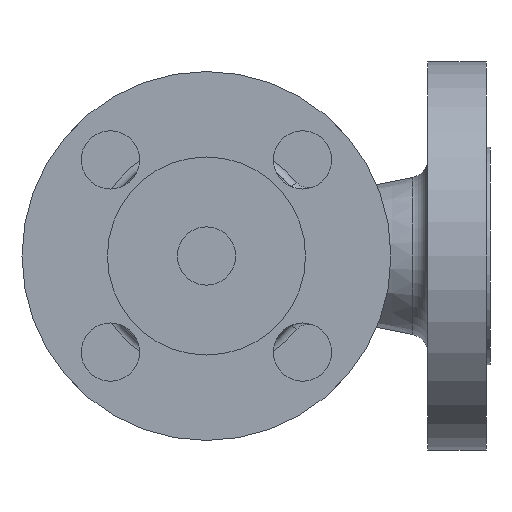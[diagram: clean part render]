
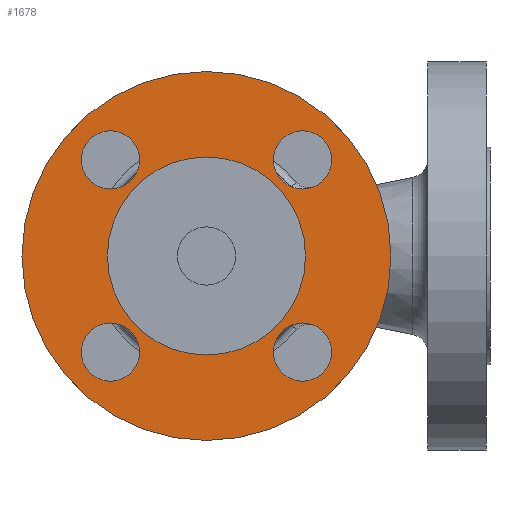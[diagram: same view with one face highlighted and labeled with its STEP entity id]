
A CAD part, front view. The second image highlights one B-rep face of the part: STEP entity #1678.
In plain terms, the highlighted planar face has unit normal (0, -1, 0).
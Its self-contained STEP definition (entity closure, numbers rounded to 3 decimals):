
#57 = ORIENTED_EDGE ( 'NONE', *, *, #506, .F. ) ;
#112 = DIRECTION ( 'NONE',  ( -1., 0., 0. ) ) ;
#154 = CIRCLE ( 'NONE', #2131, 7.5 ) ;
#400 = FACE_BOUND ( 'NONE', #2006, .T. ) ;
#414 = DIRECTION ( 'NONE',  ( 0., -1., 0. ) ) ;
#424 = CARTESIAN_POINT ( 'NONE',  ( -25.5, -71., 0. ) ) ;
#441 = CARTESIAN_POINT ( 'NONE',  ( 0., -71., -25.5 ) ) ;
#506 = EDGE_CURVE ( 'NONE', #753, #2896, #1144, .T. ) ;
#510 = DIRECTION ( 'NONE',  ( 0., 0., 1. ) ) ;
#597 = EDGE_CURVE ( 'NONE', #2718, #3862, #1820, .T. ) ;
#649 = CARTESIAN_POINT ( 'NONE',  ( -24.749, -71., 24.749 ) ) ;
#664 = DIRECTION ( 'NONE',  ( -1., 0., 0. ) ) ;
#711 = AXIS2_PLACEMENT_3D ( 'NONE', #2537, #1681, #112 ) ;
#753 = VERTEX_POINT ( 'NONE', #2943 ) ;
#778 = FACE_OUTER_BOUND ( 'NONE', #1439, .T. ) ;
#786 = AXIS2_PLACEMENT_3D ( 'NONE', #5008, #4115, #2106 ) ;
#1042 = ORIENTED_EDGE ( 'NONE', *, *, #2656, .F. ) ;
#1057 = DIRECTION ( 'NONE',  ( 0., -1., 0. ) ) ;
#1112 = DIRECTION ( 'NONE',  ( 0., 0., 1. ) ) ;
#1117 = ORIENTED_EDGE ( 'NONE', *, *, #4828, .F. ) ;
#1144 = CIRCLE ( 'NONE', #711, 7.5 ) ;
#1354 = AXIS2_PLACEMENT_3D ( 'NONE', #649, #3927, #4810 ) ;
#1439 = EDGE_LOOP ( 'NONE', ( #1117, #4475 ) ) ;
#1468 = DIRECTION ( 'NONE',  ( 0., 0., 1. ) ) ;
#1492 = EDGE_LOOP ( 'NONE', ( #2108, #1042 ) ) ;
#1499 = DIRECTION ( 'NONE',  ( 0., -1., 0. ) ) ;
#1535 = CARTESIAN_POINT ( 'NONE',  ( -24.749, -71., -32.249 ) ) ;
#1580 = AXIS2_PLACEMENT_3D ( 'NONE', #3119, #1499, #664 ) ;
#1597 = CIRCLE ( 'NONE', #5155, 7.5 ) ;
#1671 = CARTESIAN_POINT ( 'NONE',  ( 0., -71., -47.5 ) ) ;
#1678 = ADVANCED_FACE ( 'NONE', ( #5319, #3261, #4907, #4493, #400, #778 ), #4522, .T. ) ;
#1681 = DIRECTION ( 'NONE',  ( 0., -1., 0. ) ) ;
#1807 = VERTEX_POINT ( 'NONE', #441 ) ;
#1820 = CIRCLE ( 'NONE', #4883, 7.5 ) ;
#1851 = VERTEX_POINT ( 'NONE', #3302 ) ;
#1861 = CARTESIAN_POINT ( 'NONE',  ( 0., -71., 0. ) ) ;
#1912 = DIRECTION ( 'NONE',  ( 0., -1., 0. ) ) ;
#1914 = AXIS2_PLACEMENT_3D ( 'NONE', #424, #2060, #3308 ) ;
#1999 = EDGE_LOOP ( 'NONE', ( #3033, #4405 ) ) ;
#2006 = EDGE_LOOP ( 'NONE', ( #4288, #4063 ) ) ;
#2060 = DIRECTION ( 'NONE',  ( 0., -1., 0. ) ) ;
#2106 = DIRECTION ( 'NONE',  ( 1., 0., 0. ) ) ;
#2108 = ORIENTED_EDGE ( 'NONE', *, *, #4337, .F. ) ;
#2131 = AXIS2_PLACEMENT_3D ( 'NONE', #5159, #1912, #3957 ) ;
#2159 = CARTESIAN_POINT ( 'NONE',  ( -24.749, -71., 32.249 ) ) ;
#2181 = AXIS2_PLACEMENT_3D ( 'NONE', #4665, #4231, #3847 ) ;
#2184 = CIRCLE ( 'NONE', #2617, 47.5 ) ;
#2408 = CIRCLE ( 'NONE', #786, 7.5 ) ;
#2427 = CARTESIAN_POINT ( 'NONE',  ( 0., -71., 47.5 ) ) ;
#2447 = CARTESIAN_POINT ( 'NONE',  ( 24.749, -71., 17.249 ) ) ;
#2537 = CARTESIAN_POINT ( 'NONE',  ( 24.749, -71., 24.749 ) ) ;
#2573 = DIRECTION ( 'NONE',  ( 0., 0., 1. ) ) ;
#2617 = AXIS2_PLACEMENT_3D ( 'NONE', #2626, #3501, #1468 ) ;
#2626 = CARTESIAN_POINT ( 'NONE',  ( 0., -71., 0. ) ) ;
#2656 = EDGE_CURVE ( 'NONE', #2902, #5255, #1597, .T. ) ;
#2683 = CARTESIAN_POINT ( 'NONE',  ( 24.749, -71., -32.249 ) ) ;
#2701 = DIRECTION ( 'NONE',  ( 0., 1., 0. ) ) ;
#2718 = VERTEX_POINT ( 'NONE', #1535 ) ;
#2745 = EDGE_LOOP ( 'NONE', ( #4845, #2826 ) ) ;
#2798 = CIRCLE ( 'NONE', #3924, 47.5 ) ;
#2826 = ORIENTED_EDGE ( 'NONE', *, *, #3722, .F. ) ;
#2856 = CIRCLE ( 'NONE', #3371, 25.5 ) ;
#2896 = VERTEX_POINT ( 'NONE', #2447 ) ;
#2902 = VERTEX_POINT ( 'NONE', #4127 ) ;
#2943 = CARTESIAN_POINT ( 'NONE',  ( 24.749, -71., 32.249 ) ) ;
#2977 = EDGE_CURVE ( 'NONE', #1807, #1851, #3570, .T. ) ;
#3033 = ORIENTED_EDGE ( 'NONE', *, *, #4593, .F. ) ;
#3035 = DIRECTION ( 'NONE',  ( 0., 1., 0. ) ) ;
#3070 = EDGE_CURVE ( 'NONE', #2896, #753, #3662, .T. ) ;
#3119 = CARTESIAN_POINT ( 'NONE',  ( 24.749, -71., 24.749 ) ) ;
#3261 = FACE_BOUND ( 'NONE', #1492, .T. ) ;
#3275 = DIRECTION ( 'NONE',  ( 1., 0., 0. ) ) ;
#3302 = CARTESIAN_POINT ( 'NONE',  ( 0., -71., 25.5 ) ) ;
#3308 = DIRECTION ( 'NONE',  ( 0., 0., -1. ) ) ;
#3339 = VERTEX_POINT ( 'NONE', #2159 ) ;
#3371 = AXIS2_PLACEMENT_3D ( 'NONE', #1861, #2701, #1112 ) ;
#3498 = VERTEX_POINT ( 'NONE', #5259 ) ;
#3501 = DIRECTION ( 'NONE',  ( 0., 1., 0. ) ) ;
#3570 = CIRCLE ( 'NONE', #4970, 25.5 ) ;
#3662 = CIRCLE ( 'NONE', #1580, 7.5 ) ;
#3722 = EDGE_CURVE ( 'NONE', #3862, #2718, #2408, .T. ) ;
#3847 = DIRECTION ( 'NONE',  ( 0., 0., -1. ) ) ;
#3857 = CARTESIAN_POINT ( 'NONE',  ( -24.749, -71., -17.249 ) ) ;
#3862 = VERTEX_POINT ( 'NONE', #3857 ) ;
#3890 = CARTESIAN_POINT ( 'NONE',  ( 0., -71., 0. ) ) ;
#3924 = AXIS2_PLACEMENT_3D ( 'NONE', #4643, #5125, #510 ) ;
#3927 = DIRECTION ( 'NONE',  ( 0., -1., 0. ) ) ;
#3957 = DIRECTION ( 'NONE',  ( 0., 0., 1. ) ) ;
#4033 = EDGE_CURVE ( 'NONE', #1851, #1807, #2856, .T. ) ;
#4063 = ORIENTED_EDGE ( 'NONE', *, *, #2977, .T. ) ;
#4115 = DIRECTION ( 'NONE',  ( 0., -1., 0. ) ) ;
#4125 = VERTEX_POINT ( 'NONE', #2427 ) ;
#4127 = CARTESIAN_POINT ( 'NONE',  ( 24.749, -71., -17.249 ) ) ;
#4231 = DIRECTION ( 'NONE',  ( 0., -1., 0. ) ) ;
#4288 = ORIENTED_EDGE ( 'NONE', *, *, #4033, .T. ) ;
#4337 = EDGE_CURVE ( 'NONE', #5255, #2902, #154, .T. ) ;
#4378 = DIRECTION ( 'NONE',  ( 0., 0., 1. ) ) ;
#4405 = ORIENTED_EDGE ( 'NONE', *, *, #4911, .F. ) ;
#4475 = ORIENTED_EDGE ( 'NONE', *, *, #5366, .F. ) ;
#4493 = FACE_BOUND ( 'NONE', #1999, .T. ) ;
#4522 = PLANE ( 'NONE',  #1914 ) ;
#4549 = CIRCLE ( 'NONE', #2181, 7.5 ) ;
#4593 = EDGE_CURVE ( 'NONE', #3498, #3339, #4748, .T. ) ;
#4643 = CARTESIAN_POINT ( 'NONE',  ( 0., -71., 0. ) ) ;
#4665 = CARTESIAN_POINT ( 'NONE',  ( -24.749, -71., 24.749 ) ) ;
#4748 = CIRCLE ( 'NONE', #1354, 7.5 ) ;
#4759 = VERTEX_POINT ( 'NONE', #1671 ) ;
#4787 = CARTESIAN_POINT ( 'NONE',  ( 24.749, -71., -24.749 ) ) ;
#4810 = DIRECTION ( 'NONE',  ( 0., 0., -1. ) ) ;
#4828 = EDGE_CURVE ( 'NONE', #4125, #4759, #2798, .T. ) ;
#4845 = ORIENTED_EDGE ( 'NONE', *, *, #597, .F. ) ;
#4883 = AXIS2_PLACEMENT_3D ( 'NONE', #5363, #414, #3275 ) ;
#4907 = FACE_BOUND ( 'NONE', #2745, .T. ) ;
#4911 = EDGE_CURVE ( 'NONE', #3339, #3498, #4549, .T. ) ;
#4961 = EDGE_LOOP ( 'NONE', ( #5256, #57 ) ) ;
#4970 = AXIS2_PLACEMENT_3D ( 'NONE', #3890, #3035, #2573 ) ;
#5008 = CARTESIAN_POINT ( 'NONE',  ( -24.749, -71., -24.749 ) ) ;
#5125 = DIRECTION ( 'NONE',  ( 0., 1., 0. ) ) ;
#5155 = AXIS2_PLACEMENT_3D ( 'NONE', #4787, #1057, #4378 ) ;
#5159 = CARTESIAN_POINT ( 'NONE',  ( 24.749, -71., -24.749 ) ) ;
#5255 = VERTEX_POINT ( 'NONE', #2683 ) ;
#5256 = ORIENTED_EDGE ( 'NONE', *, *, #3070, .F. ) ;
#5259 = CARTESIAN_POINT ( 'NONE',  ( -24.749, -71., 17.249 ) ) ;
#5319 = FACE_BOUND ( 'NONE', #4961, .T. ) ;
#5363 = CARTESIAN_POINT ( 'NONE',  ( -24.749, -71., -24.749 ) ) ;
#5366 = EDGE_CURVE ( 'NONE', #4759, #4125, #2184, .T. ) ;
